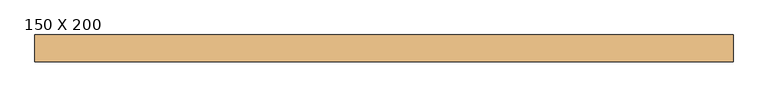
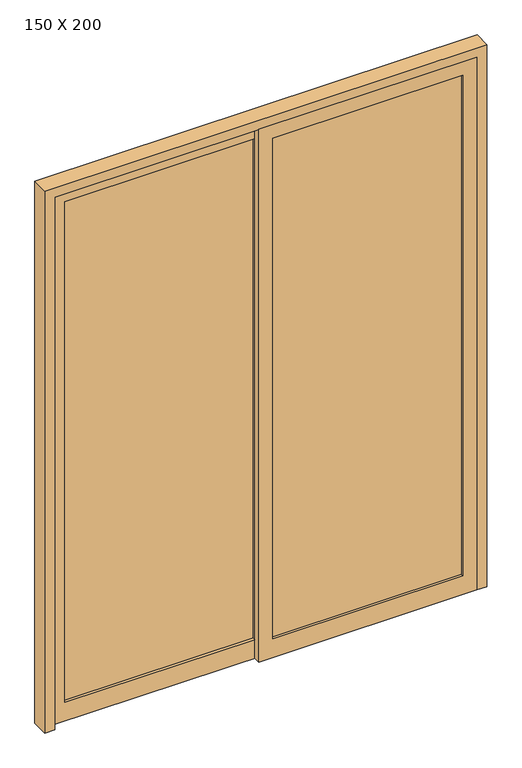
"""IFC4 building model written with IfcOpenShell, lengths in millimetres: door geometry, PORTA TELADA COM ESQUADRIA DE CORRER - 2 FOLHAS : 150 X 200."""

from ifc_helpers import new_model, si_unit, frame, origin, place, context, project, spatial, polyline, outline, extrude, source, transform, mapped, element, save


def door_150_x_200_1a9ccb07(model_context):
    return source(origin(), model_context, "Body", "SweptSolid", [
        extrude(outline(polyline([(773.1608739, -57.5041286), (773.1608739, -63.5041286), (98.1608739, -63.5041286), (98.1608739, -57.5041286), (773.1608739, -57.5041286)])), frame((0.0, 0.0, 70.0), z_axis=(0.0, 0.0, 1.0), x_axis=(1.0, 0.0, 0.0)), (0.0, 0.0, 1.0), 1880.0),
        extrude(outline(polyline([(2000.0, 823.1608739), (2000.0, 48.1608739), (0.0, 48.1608739), (0.0, 823.1608739), (2000.0, 823.1608739)]), holes=[polyline([(1950.0, 773.1608739), (70.0, 773.1608739), (70.0, 98.1608739), (1950.0, 98.1608739), (1950.0, 773.1608739)])]), frame((0.0, -73.0041286, 0.0), z_axis=(0.0, 1.0, 0.0), x_axis=(0.0, 0.0, 1.0)), (0.0, 0.0, 1.0), 25.0),
        extrude(outline(polyline([(-626.8391261, -38.5041286), (-626.8391261, -32.5041286), (48.1608739, -32.5041286), (48.1608739, -38.5041286), (-626.8391261, -38.5041286)])), frame((0.0, 0.0, 70.0), z_axis=(0.0, 0.0, 1.0), x_axis=(1.0, 0.0, 0.0)), (0.0, 0.0, 1.0), 1880.0),
        extrude(outline(polyline([(2000.0, -676.8391261), (0.0, -676.8391261), (0.0, 98.1608739), (2000.0, 98.1608739), (2000.0, -676.8391261)]), holes=[polyline([(1950.0, -626.8391261), (1950.0, 48.1608739), (70.0, 48.1608739), (70.0, -626.8391261), (1950.0, -626.8391261)])]), frame((0.0, -48.0041286, 0.0), z_axis=(0.0, 1.0, 0.0), x_axis=(0.0, 0.0, 1.0)), (0.0, 0.0, 1.0), 25.0),
        extrude(outline(polyline([(2035.0, -711.8391261), (0.0, -711.8391261), (0.0, -676.8391261), (2000.0, -676.8391261), (2000.0, 823.1608739), (0.0, 823.1608739), (0.0, 858.1608739), (2035.0, 858.1608739), (2035.0, -711.8391261)])), frame((0.0, -73.0041286, 0.0), z_axis=(0.0, 1.0, 0.0), x_axis=(0.0, 0.0, 1.0)), (0.0, 0.0, 1.0), 60.0),
    ])


if __name__ == "__main__":
    model = new_model("IFC4")
    model_context = context("Model", 3, world=origin())
    ifc_project = project(units=[si_unit("LENGTHUNIT", "METRE", prefix="MILLI")], contexts=[model_context])
    site = spatial("IfcSite", under=ifc_project)
    building = spatial("IfcBuilding", under=site)
    placement = place(None, origin())
    door_150_x_200_shape = door_150_x_200_1a9ccb07(model_context)
    element("IfcDoor", 1, ObjectType="PORTA TELADA COM ESQUADRIA DE CORRER - 2 FOLHAS : 150 X 200", at=placement, inside=building, context=model_context, shape_type="MappedRepresentation", body=[
        mapped(door_150_x_200_shape, transform((0.0, 0.0, 0.0), x_axis=(1.0, 0.0, 0.0), y_axis=(0.0, 1.0, 0.0), z_axis=(0.0, 0.0, 1.0))),
    ])
    save(model, "model.ifc")
